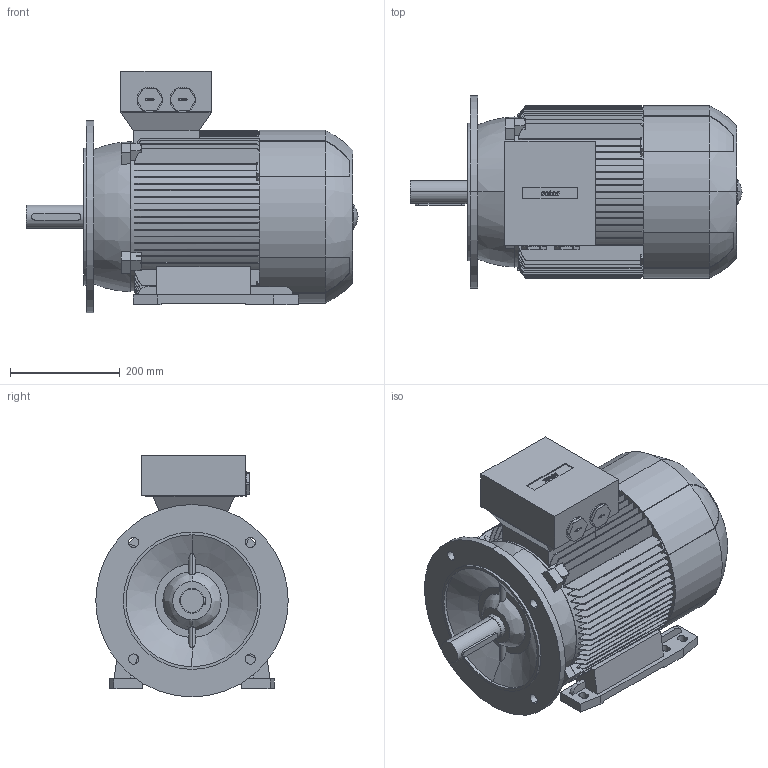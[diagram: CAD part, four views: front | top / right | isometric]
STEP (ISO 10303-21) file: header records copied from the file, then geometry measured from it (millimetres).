
FILE_DESCRIPTION (( 'STEP AP214' ), '1' );
FILE_NAME ('6RN160L02E24 IM2001.STEP', '2014-09-15T12:17:45', ( 'rbc_ict' ), ( 'REGAL' ), 'SwSTEP 2.0', 'SolidWorks 2012', '' );
FILE_SCHEMA (( 'AUTOMOTIVE_DESIGN' ));
Length unit declared in the file: millimetre
Products named in the file (1): 6RN160L02E24 IM2001
Bounding box: 604 x 350 x 440 mm (x, y, z)
Volume: 35619206.2 mm3; surface area: 1509809.1 mm2
Topology: 1 solids, 1 shells, 828 faces, 2418 edges, 1601 vertices
Faces by surface type: plane 469, bspline 190, cylinder 163, cone 6
Entity records: 33135 total; most frequent: CARTESIAN_POINT 12504, ORIENTED_EDGE 4832, DIRECTION 3605, EDGE_CURVE 2416, VERTEX_POINT 1601, VECTOR 1345, LINE 1345, AXIS2_PLACEMENT_3D 1130
